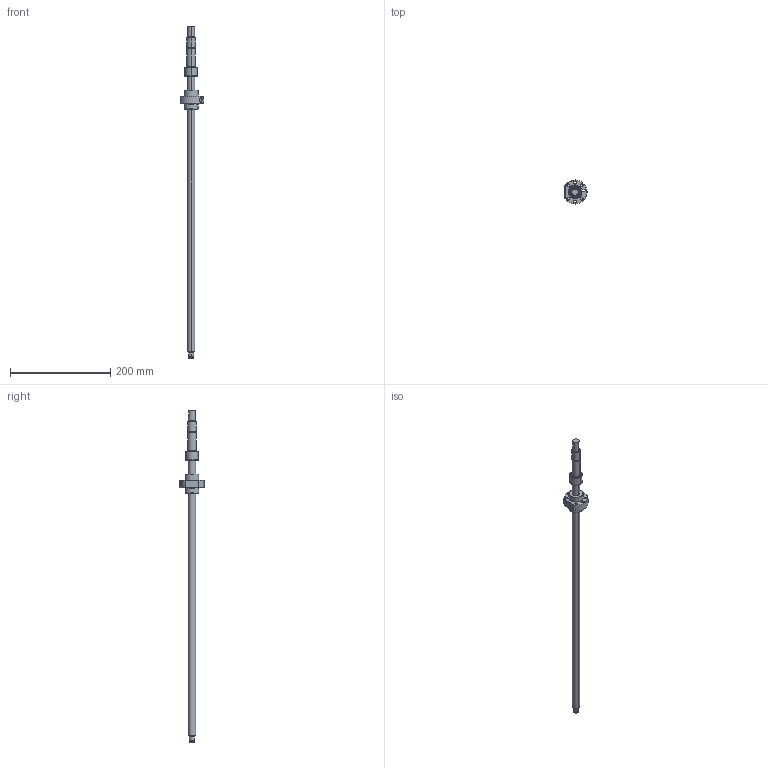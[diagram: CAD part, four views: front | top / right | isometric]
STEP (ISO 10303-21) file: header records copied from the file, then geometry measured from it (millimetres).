
FILE_DESCRIPTION((''),'2;1');
FILE_NAME('BASA_16X5RX3_SE_ASM','2025-01-17T22:22:09',('ac91sw'),(''),'CREO PARAMETRIC BY PTC INC, 2023134','CREO PARAMETRIC BY PTC INC, 2023134','');
FILE_SCHEMA(('AUTOMOTIVE_DESIGN { 1 0 10303 214 1 1 1 1 }'));
Length unit declared in the file: millimetre
Products named in the file (4): BASA_16X5RX3_SE_SKEL; BASA_16X5RX3_SE_SPDL; R151Z01055; BASA_16X5RX3_SE_ASM
Assembly tree (3 placements, depth 2):
  BASA_16X5RX3_SE_ASM
    BASA_16X5RX3_SE_SKEL
    BASA_16X5RX3_SE_SPDL
    R151Z01055
Bounding box: 43.97 x 47.96 x 663 mm (x, y, z)
Volume: 152456 mm3; surface area: 45614.7 mm2
Topology: 2 solids, 4 shells, 154 faces, 359 edges, 222 vertices
Faces by surface type: cylinder 58, cone 42, plane 34, torus 20
Entity records: 9032 total; most frequent: CARTESIAN_POINT 1463, DIRECTION 856, ORIENTED_EDGE 706, PROPERTY_DEFINITION 548, REPRESENTATION 544, PROPERTY_DEFINITION_REPRESENTATION 544, DESCRIPTIVE_REPRESENTATION_ITEM 516, GENERAL_PROPERTY 512
